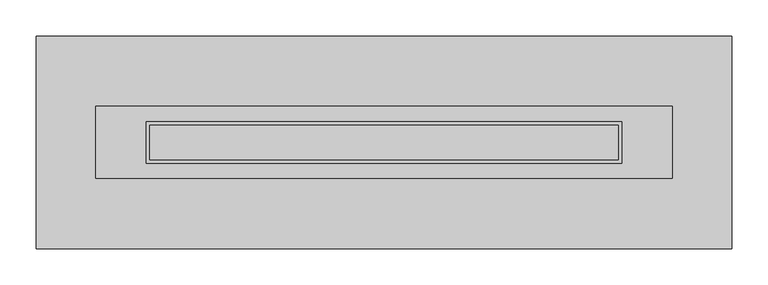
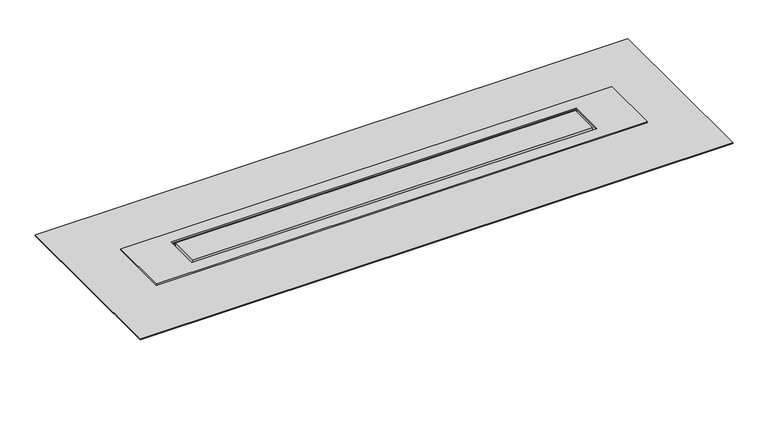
"""IFC4 building model written with IfcOpenShell, lengths in millimetres: sanitary terminal geometry, NLRS_PF_52_UN_Compact TAF Modulo Design_Easydrain : Compact TAF Modulo Design Z4."""

from ifc_helpers import new_model, si_unit, frame, origin, place, context, project, spatial, polyline, circle_curve, ellipse_curve, outline, extrude, source, transform, mapped, element, save
from ifc_brep_helpers import plane_surface, cylinder_surface, advanced_brep


def sanitary_terminal_e52f65bd(model_context):
    return source(origin(), model_context, "Body", "SolidModel", [
        extrude(outline(polyline([(-175.0, -24.0), (-175.0, 24.0), (475.0, 24.0), (475.0, -24.0), (-175.0, -24.0)])), frame((0.0, 0.0, -7.0), z_axis=(0.0, 0.0, 1.0), x_axis=(1.0, 0.0, 0.0)), (0.0, 0.0, 1.0), 7.0),
        extrude(outline(polyline([(550.0, 50.0), (550.0, -50.0), (-250.0, -50.0), (-250.0, 50.0), (550.0, 50.0)]), holes=[polyline([(480.0, 29.0), (-180.0, 29.0), (-180.0, -29.0), (480.0, -29.0), (480.0, 29.0)])]), frame((0.0, 0.0, -2.0), z_axis=(0.0, 0.0, 1.0), x_axis=(1.0, 0.0, 0.0)), (0.0, 0.0, 1.0), 2.0),
        extrude(outline(polyline([(632.5, 147.5), (632.5, -147.5), (-332.5, -147.5), (-332.5, 147.5), (632.5, 147.5)]), holes=[polyline([(532.5, 31.0), (-232.5, 31.0), (-232.5, -31.0), (532.5, -31.0), (532.5, 31.0)])]), frame((0.0, 0.0, -8.0), z_axis=(0.0, 0.0, 1.0), x_axis=(1.0, 0.0, 0.0)), (0.0, 0.0, 1.0), 2.0),
        advanced_brep(
        [(-232.5, -31.0, -25.0), (40.0, -31.0, -27.0), (40.0, -31.0, -90.0), (260.0, -31.0, -90.0), (260.0, -31.0, -27.0), (532.5, -31.0, -25.0), (532.5, -31.0, -9.0), (-232.5, -31.0, -9.0), (150.0, -31.0, -30.0), (150.0, -31.0, -80.0), (532.5, 31.0, -25.0), (260.0, 31.0, -27.0), (260.0, 31.0, -90.0), (40.0, 31.0, -90.0), (40.0, 31.0, -27.0), (-232.5, 31.0, -25.0), (-232.5, 31.0, -9.0), (532.5, 31.0, -9.0), (-212.5, 0.0, -25.146789), (-172.5, 0.0, -25.440367), (532.5, 30.0, -9.0), (532.5, -30.0, -9.0), (550.0, 47.5, -7.0), (-250.0, 47.5, -7.0), (-250.0, -64.5, -7.0), (550.0, -64.5, -7.0), (-232.5, -30.0, -9.0), (-232.5, 30.0, -9.0), (472.5, 0.0, -25.440367), (512.5, 0.0, -25.146789), (150.0, -50.0, -30.0), (150.0, -50.0, -80.0), (550.0, 47.5, -9.0), (550.0, -64.5, -9.0), (-250.0, -64.5, -9.0), (-250.0, 47.5, -9.0), (-212.5, 0.0, -90.0), (-172.5, 0.0, -90.0), (472.5, 0.0, -90.0), (512.5, 0.0, -90.0)],
        [
            (0, 1),
            (1, 2),
            (2, 3),
            (3, 4),
            (4, 5),
            (5, 6),
            (6, 7),
            (7, 0),
            (8, 9, circle_curve(frame((150.0, -31.0, -55.0), z_axis=(0.0, 1.0, 0.0), x_axis=(0.0, 0.0, -1.0)), 25.0)),
            (9, 8, circle_curve(frame((150.0, -31.0, -55.0), z_axis=(0.0, 1.0, 0.0), x_axis=(0.0, 0.0, -1.0)), 25.0)),
            (10, 11),
            (11, 12),
            (12, 13),
            (13, 14),
            (14, 15),
            (15, 16),
            (16, 17),
            (17, 10),
            (0, 15),
            (14, 1),
            (18, 19, ellipse_curve(frame((-192.5, 0.0, -25.293578), z_axis=(0.007339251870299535, 0.0, 0.9999730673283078), x_axis=(-0.9999730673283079, 0.0, 0.007339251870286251)), 20.0005387, 20.0)),
            (19, 18, ellipse_curve(frame((-192.5, 0.0, -25.293578), z_axis=(0.007339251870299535, 0.0, 0.9999730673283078), x_axis=(-0.9999730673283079, 0.0, 0.007339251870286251)), 20.0005387, 20.0)),
            (5, 10),
            (17, 20),
            (20, 21),
            (21, 6),
            (22, 23),
            (23, 24),
            (24, 25),
            (25, 22),
            (7, 26),
            (26, 27),
            (27, 16),
            (13, 2),
            (12, 3),
            (11, 4),
            (28, 29, ellipse_curve(frame((492.5, 0.0, -25.293578), z_axis=(-0.00733925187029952, 0.0, 0.9999730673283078), x_axis=(0.9999730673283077, 0.0, 0.007339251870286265)), 20.0005387, 20.0)),
            (29, 28, ellipse_curve(frame((492.5, 0.0, -25.293578), z_axis=(-0.00733925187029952, 0.0, 0.9999730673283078), x_axis=(0.9999730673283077, 0.0, 0.007339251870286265)), 20.0005387, 20.0)),
            (30, 31, circle_curve(frame((150.0, -50.0, -55.0), z_axis=(0.0, -1.0, 0.0), x_axis=(0.0, 0.0, -1.0)), 25.0)),
            (31, 30, circle_curve(frame((150.0, -50.0, -55.0), z_axis=(0.0, -1.0, 0.0), x_axis=(0.0, 0.0, -1.0)), 25.0)),
            (31, 9),
            (8, 30),
            (32, 33),
            (33, 34),
            (34, 35),
            (35, 32),
            (22, 32),
            (35, 23),
            (34, 24),
            (33, 25),
            (36, 37, circle_curve(frame((-192.5, 0.0, -90.0), z_axis=(0.0, 0.0, -1.0), x_axis=(1.0, 0.0, 0.0)), 20.0)),
            (37, 36, circle_curve(frame((-192.5, 0.0, -90.0), z_axis=(0.0, 0.0, -1.0), x_axis=(1.0, 0.0, 0.0)), 20.0)),
            (38, 39, circle_curve(frame((492.5, 0.0, -90.0), z_axis=(0.0, 0.0, -1.0), x_axis=(1.0, 0.0, 0.0)), 20.0)),
            (39, 38, circle_curve(frame((492.5, 0.0, -90.0), z_axis=(0.0, 0.0, -1.0), x_axis=(1.0, 0.0, 0.0)), 20.0)),
            (37, 19),
            (18, 36),
            (39, 29),
            (28, 38),
        ],
        [
            plane_surface(frame((-232.5, -31.0, -25.0), z_axis=(0.0, -1.0, 0.0), x_axis=(0.9999730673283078, 0.0, -0.007339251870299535))),
            plane_surface(frame((-232.5, 31.0, -25.0), z_axis=(0.0, 1.0, 0.0), x_axis=(-0.9999730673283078, 0.0, 0.007339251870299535))),
            plane_surface(frame((-232.5, -31.0, -25.0), z_axis=(-0.007339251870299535, 0.0, -0.9999730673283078), x_axis=(0.0, 1.0, 0.0))),
            plane_surface(frame((532.5, -31.0, -25.0), z_axis=(1.0, 0.0, 0.0), x_axis=(0.0, 1.0, 0.0))),
            plane_surface(frame((532.5, -31.0, -7.0), z_axis=(0.0, 0.0, 1.0), x_axis=(0.0, 1.0, 0.0))),
            plane_surface(frame((-232.5, -31.0, -7.0), z_axis=(-1.0, 0.0, 0.0), x_axis=(0.0, 1.0, 0.0))),
            plane_surface(frame((40.0, -31.0, -27.0), z_axis=(-1.0, 0.0, 0.0), x_axis=(0.0, 1.0, 0.0))),
            plane_surface(frame((40.0, -31.0, -90.0), z_axis=(0.0, 0.0, -1.0), x_axis=(0.0, 1.0, 0.0))),
            plane_surface(frame((260.0, -31.0, -90.0), z_axis=(1.0, 0.0, 0.0), x_axis=(0.0, 1.0, 0.0))),
            plane_surface(frame((260.0, -31.0, -27.0), z_axis=(0.00733925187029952, 0.0, -0.9999730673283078), x_axis=(0.0, 1.0, 0.0))),
            plane_surface(frame((150.0, -50.0, -55.0), z_axis=(0.0, -1.0, 0.0), x_axis=(1.0, 0.0, 0.0))),
            cylinder_surface(frame((150.0, 0.0, -55.0), z_axis=(0.0, 1.0, 0.0), x_axis=(0.0, 0.0, -1.0)), 25.0),
            plane_surface(frame((532.5, 30.0, -9.0), z_axis=(0.0, 0.0, -1.0), x_axis=(0.0, 1.0, 0.0))),
            plane_surface(frame((550.0, 47.5, -7.0), z_axis=(0.0, 1.0, 0.0), x_axis=(0.0, 0.0, -1.0))),
            plane_surface(frame((-250.0, 47.5, -7.0), z_axis=(-1.0, 0.0, 0.0), x_axis=(0.0, 0.0, -1.0))),
            plane_surface(frame((-250.0, -64.5, -7.0), z_axis=(0.0, -1.0, 0.0), x_axis=(0.0, 0.0, -1.0))),
            plane_surface(frame((550.0, -64.5, -7.0), z_axis=(1.0, 0.0, 0.0), x_axis=(0.0, 0.0, -1.0))),
            plane_surface(frame((-172.5, 0.0, -90.0), z_axis=(0.0, 0.0, -1.0), x_axis=(0.0, -1.0, 0.0))),
            cylinder_surface(frame((-192.5, 0.0, -90.0), z_axis=(0.0, 0.0, 1.0), x_axis=(1.0, 0.0, 0.0)), 20.0),
            cylinder_surface(frame((492.5, 0.0, 0.0), z_axis=(0.0, 0.0, 1.0), x_axis=(1.0, 0.0, 0.0)), 20.0),
        ],
        [
            (0, [[1, 2, 3, 4, 5, 6, 7, 8], [9, 10]]),
            (1, [[11, 12, 13, 14, 15, 16, 17, 18]]),
            (2, [[-1, 19, -15, 20], [21, 22]]),
            (3, [[23, -18, 24, 25, 26, -6]]),
            (4, [[27, 28, 29, 30]]),
            (5, [[-19, -8, 31, 32, 33, -16]]),
            (6, [[-2, -20, -14, 34]]),
            (7, [[-3, -34, -13, 35]]),
            (8, [[-4, -35, -12, 36]]),
            (9, [[-5, -36, -11, -23], [37, 38]]),
            (10, [[39, 40]]),
            (11, [[-40, 41, -9, 42]]),
            (11, [[-39, -42, -10, -41]]),
            (12, [[43, 44, 45, 46], [-7, -26, -25, -24, -17, -33, -32, -31]]),
            (13, [[-27, 47, -46, 48]]),
            (14, [[-28, -48, -45, 49]]),
            (15, [[-29, -49, -44, 50]]),
            (16, [[-30, -50, -43, -47]]),
            (17, [[51, 52]]),
            (17, [[53, 54]]),
            (18, [[-52, 55, -21, 56]]),
            (18, [[-51, -56, -22, -55]]),
            (19, [[-54, 57, -37, 58]]),
            (19, [[-53, -58, -38, -57]]),
        ],
    ),
    ])


if __name__ == "__main__":
    model = new_model("IFC4")
    model_context = context("Model", 3, world=origin())
    ifc_project = project(units=[si_unit("LENGTHUNIT", "METRE", prefix="MILLI")], contexts=[model_context])
    site = spatial("IfcSite", under=ifc_project)
    building = spatial("IfcBuilding", under=site)
    placement = place(None, origin())
    sanitary_terminal_shape = sanitary_terminal_e52f65bd(model_context)
    element("IfcSanitaryTerminal", 1, ObjectType="NLRS_PF_52_UN_Compact TAF Modulo Design_Easydrain : Compact TAF Modulo Design Z4", at=placement, inside=building, context=model_context, shape_type="MappedRepresentation", body=[
        mapped(sanitary_terminal_shape, transform((0.0, 0.0, 0.0), x_axis=(1.0, 0.0, 0.0), y_axis=(0.0, 1.0, 0.0), z_axis=(0.0, 0.0, 1.0))),
    ])
    save(model, "model.ifc")
